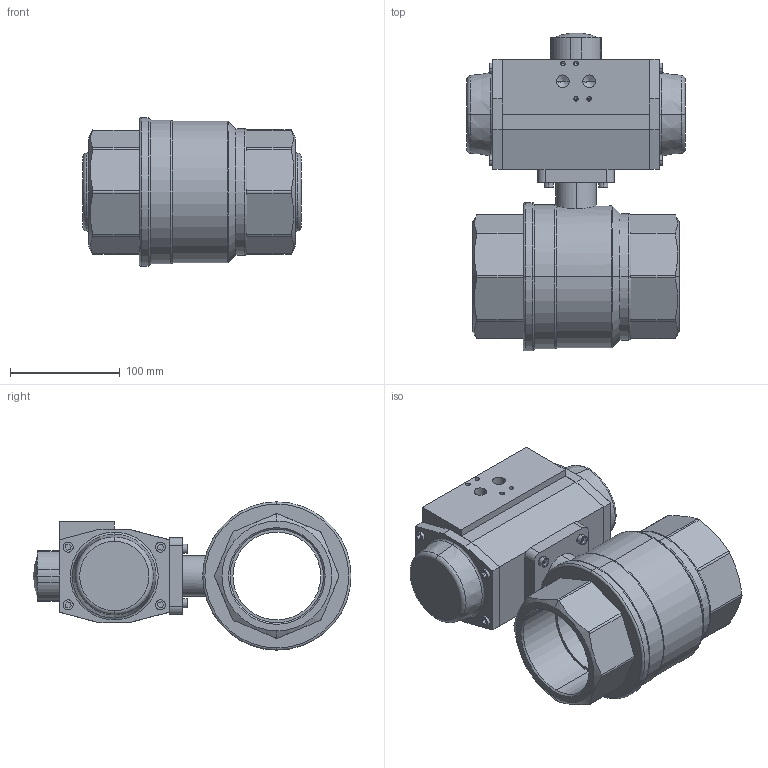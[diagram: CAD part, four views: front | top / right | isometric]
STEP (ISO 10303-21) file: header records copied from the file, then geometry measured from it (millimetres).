
FILE_DESCRIPTION (( 'STEP AP214' ), '1' );
FILE_NAME ('A25-DN80-G3+AP3.step', '2011-03-03T09:50:57', ( '' ), ( '' ), 'SwSTEP 2.0', 'SolidWorks 2011', '' );
FILE_SCHEMA (( 'AUTOMOTIVE_DESIGN' ));
Length unit declared in the file: millimetre
Products named in the file (4): DIN 912 M5 x 20 --- 20N_DIN 912 M5 x 20 --- 20N; AP3_Default<As Machined>; Ballvalve A25-DN80 G3; A25-DN80-G3+AP3
Assembly tree (6 placements, depth 2):
  A25-DN80-G3+AP3
    DIN 912 M5 x 20 --- 20N_DIN 912 M5 x 20 --- 20N  x4
    Ballvalve A25-DN80 G3
    AP3_Default<As Machined>
Bounding box: 199 x 289.49 x 135 mm (x, y, z)
Volume: 2663107.9 mm3; surface area: 253412.6 mm2
Topology: 9 solids, 9 shells, 457 faces, 1094 edges, 666 vertices
Faces by surface type: plane 228, cylinder 127, cone 66, torus 34, sphere 2
Entity records: 12299 total; most frequent: CARTESIAN_POINT 2376, DIRECTION 1862, ORIENTED_EDGE 1764, EDGE_CURVE 882, AXIS2_PLACEMENT_3D 661, VERTEX_POINT 567, LINE 540, VECTOR 540
